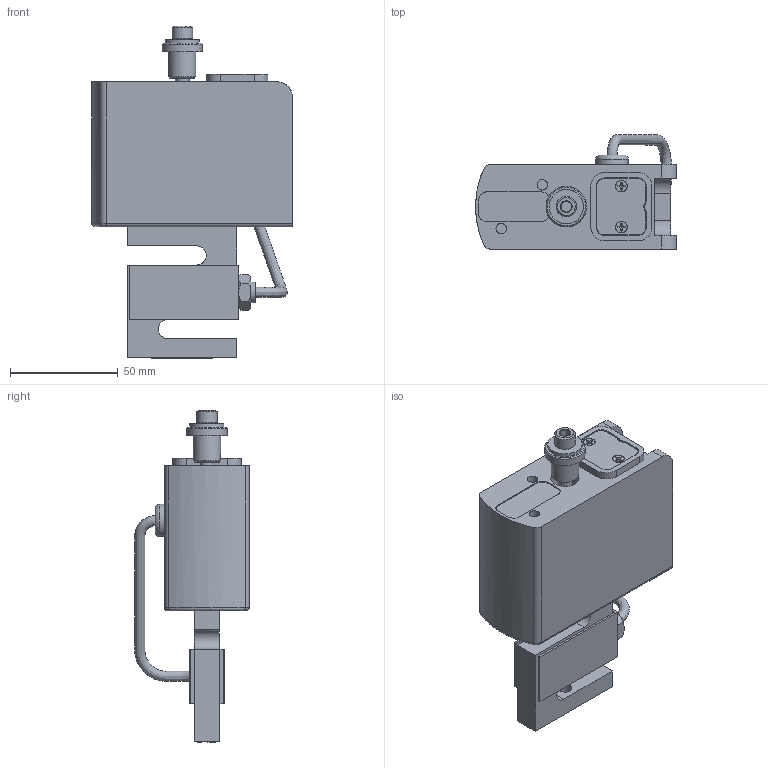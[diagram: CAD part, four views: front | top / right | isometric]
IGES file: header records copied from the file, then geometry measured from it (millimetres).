
Global section: file name: FS06-50 - FS06-200; native system: Autodesk RealDWG; preprocessor: Autodesk Translation Framework DWG producer (atf_dwg_producer); organization: unknown; date: 20220509.111932; units: inch
Bounding box: 93.34 x 53.2 x 154.23 mm (x, y, z)
Volume: 267762.2 mm3; surface area: 55450.6 mm2
Topology: 16 solids, 16 shells, 377 faces, 1063 edges, 735 vertices
Faces by surface type: bspline 377
